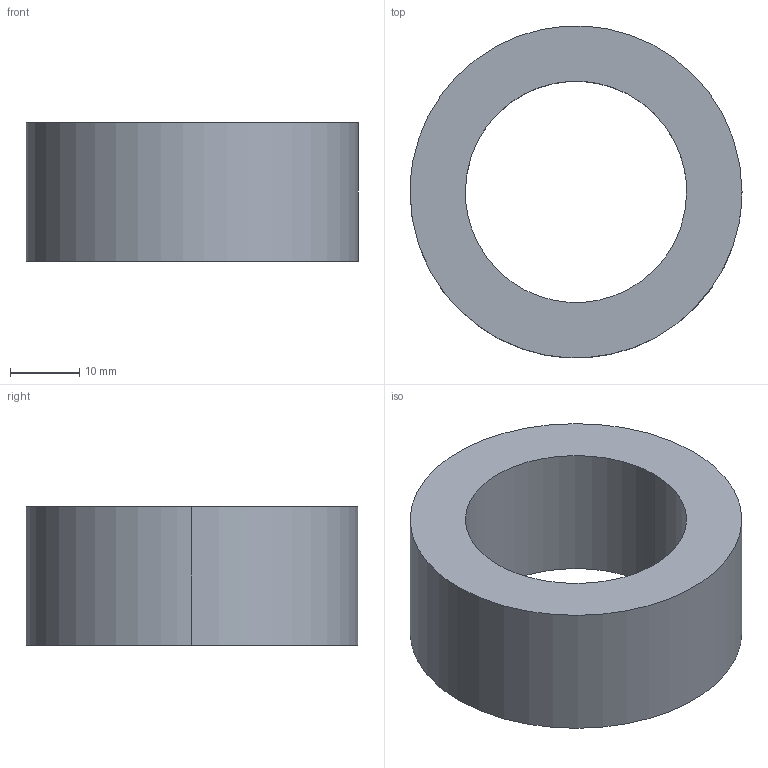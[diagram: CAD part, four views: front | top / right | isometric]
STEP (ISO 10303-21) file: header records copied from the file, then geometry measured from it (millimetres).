
FILE_DESCRIPTION(/* description */ (''),/* implementation_level */ '2;1');
FILE_NAME(/* name */ 'Nut',/* time_stamp */ '2019-03-31T22:05:26-04:00',/* author */ (''),/* organization */ (''),/* preprocessor_version */ 'ST-DEVELOPER v15',/* originating_system */ '',/* authorisation */ '');
FILE_SCHEMA (('AUTOMOTIVE_DESIGN'));
Length unit declared in the file: millimetre
Products named in the file (1): Document
Bounding box: 48 x 47.93 x 20 mm (x, y, z)
Volume: 20165.1 mm3; surface area: 7044 mm2
Topology: 1 solids, 1 shells, 6 faces, 12 edges, 8 vertices
Faces by surface type: bspline 4, plane 2
Entity records: 206 total; most frequent: CARTESIAN_POINT 100, ORIENTED_EDGE 24, EDGE_CURVE 12, EDGE_LOOP 8, VERTEX_POINT 8, ADVANCED_FACE 6, FACE_OUTER_BOUND 6, DIRECTION 6
